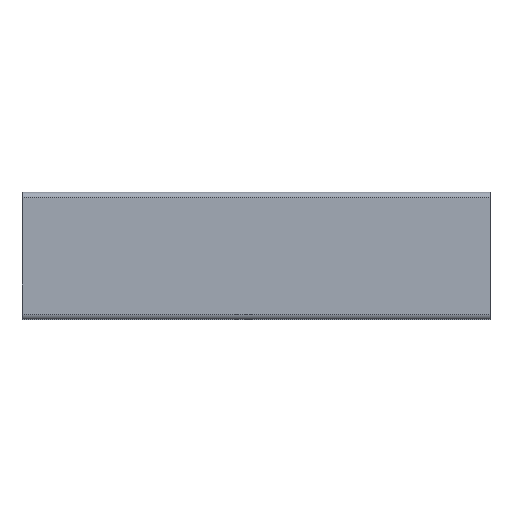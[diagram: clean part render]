
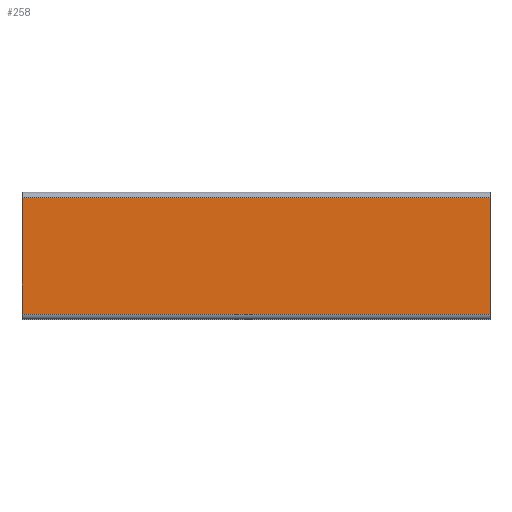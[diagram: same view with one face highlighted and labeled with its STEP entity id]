
A CAD part, top view. The second image highlights one B-rep face of the part: STEP entity #258.
In plain terms, the highlighted planar face has unit normal (0, 0, 1).
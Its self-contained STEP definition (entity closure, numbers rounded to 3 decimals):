
#160 = VERTEX_POINT ( 'NONE', #578 ) ;
#163 = VERTEX_POINT ( 'NONE', #703 ) ;
#174 = EDGE_CURVE ( 'NONE', #163, #160, #687, .T. ) ;
#251 = EDGE_CURVE ( 'NONE', #268, #270, #542, .T. ) ;
#254 = EDGE_CURVE ( 'NONE', #270, #160, #486, .T. ) ;
#256 = ORIENTED_EDGE ( 'NONE', *, *, #254, .T. ) ;
#257 = EDGE_CURVE ( 'NONE', #268, #163, #477, .T. ) ;
#258 = ADVANCED_FACE ( 'NONE', ( #492 ), #487, .F. ) ;
#259 = ORIENTED_EDGE ( 'NONE', *, *, #174, .F. ) ;
#260 = ORIENTED_EDGE ( 'NONE', *, *, #257, .F. ) ;
#261 = ORIENTED_EDGE ( 'NONE', *, *, #251, .T. ) ;
#268 = VERTEX_POINT ( 'NONE', #806 ) ;
#270 = VERTEX_POINT ( 'NONE', #801 ) ;
#274 = EDGE_LOOP ( 'NONE', ( #256, #259, #260, #261 ) ) ;
#471 = DIRECTION ( 'NONE',  ( -1., 0., 0. ) ) ;
#472 = DIRECTION ( 'NONE',  ( 0., 0., -1. ) ) ;
#473 = CARTESIAN_POINT ( 'NONE',  ( 88.42, -11., 12. ) ) ;
#474 = DIRECTION ( 'NONE',  ( 0., -1., 0. ) ) ;
#475 = VECTOR ( 'NONE', #474, 1000. ) ;
#476 = CARTESIAN_POINT ( 'NONE',  ( 88.42, -11., 12. ) ) ;
#477 = LINE ( 'NONE', #476, #475 ) ;
#478 = AXIS2_PLACEMENT_3D ( 'NONE', #473, #472, #471 ) ;
#479 = DIRECTION ( 'NONE',  ( 0., -1., 0. ) ) ;
#480 = VECTOR ( 'NONE', #479, 1000. ) ;
#481 = CARTESIAN_POINT ( 'NONE',  ( 0., -11., 12. ) ) ;
#486 = LINE ( 'NONE', #481, #480 ) ;
#487 = PLANE ( 'NONE',  #478 ) ;
#488 = DIRECTION ( 'NONE',  ( -1., 0., 0. ) ) ;
#489 = VECTOR ( 'NONE', #488, 1000. ) ;
#490 = CARTESIAN_POINT ( 'NONE',  ( 88.42, 11., 12. ) ) ;
#492 = FACE_OUTER_BOUND ( 'NONE', #274, .T. ) ;
#542 = LINE ( 'NONE', #490, #489 ) ;
#578 = CARTESIAN_POINT ( 'NONE',  ( 0., -11., 12. ) ) ;
#684 = DIRECTION ( 'NONE',  ( -1., 0., 0. ) ) ;
#685 = VECTOR ( 'NONE', #684, 1000. ) ;
#686 = CARTESIAN_POINT ( 'NONE',  ( 88.42, -11., 12. ) ) ;
#687 = LINE ( 'NONE', #686, #685 ) ;
#703 = CARTESIAN_POINT ( 'NONE',  ( 88.42, -11., 12. ) ) ;
#801 = CARTESIAN_POINT ( 'NONE',  ( 0., 11., 12. ) ) ;
#806 = CARTESIAN_POINT ( 'NONE',  ( 88.42, 11., 12. ) ) ;
